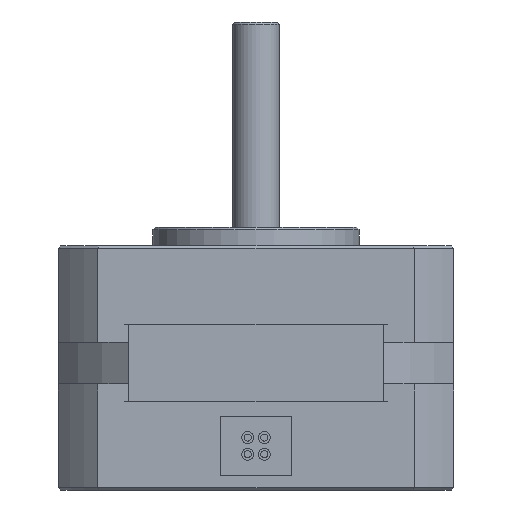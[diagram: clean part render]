
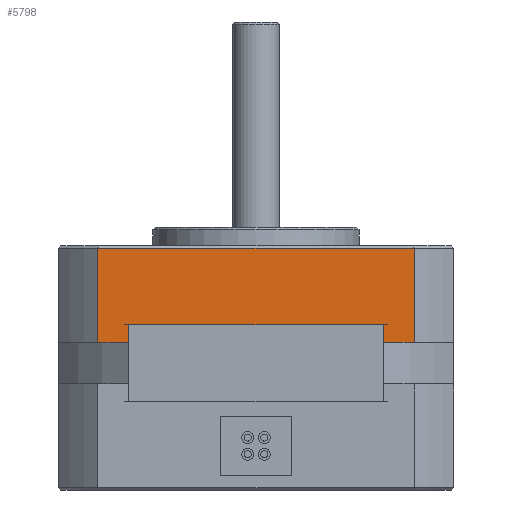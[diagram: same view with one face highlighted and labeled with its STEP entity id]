
A CAD part, front view. The second image highlights one B-rep face of the part: STEP entity #5798.
In plain terms, the highlighted planar face has unit normal (0, -1, 0).
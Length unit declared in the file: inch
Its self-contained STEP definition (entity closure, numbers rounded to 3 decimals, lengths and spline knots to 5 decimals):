
#5490 = VERTEX_POINT ( 'NONE', #8144 ) ;
#5532 = VERTEX_POINT ( 'NONE', #8313 ) ;
#5533 = EDGE_CURVE ( 'NONE', #5532, #5490, #8315, .T. ) ;
#5540 = EDGE_CURVE ( 'NONE', #5543, #5580, #8279, .T. ) ;
#5543 = VERTEX_POINT ( 'NONE', #8309 ) ;
#5580 = VERTEX_POINT ( 'NONE', #8461 ) ;
#5696 = ORIENTED_EDGE ( 'NONE', *, *, #5813, .T. ) ;
#5697 = EDGE_CURVE ( 'NONE', #5698, #5837, #8906, .T. ) ;
#5698 = VERTEX_POINT ( 'NONE', #8977 ) ;
#5771 = ORIENTED_EDGE ( 'NONE', *, *, #5533, .F. ) ;
#5776 = ORIENTED_EDGE ( 'NONE', *, *, #5801, .F. ) ;
#5777 = VERTEX_POINT ( 'NONE', #9202 ) ;
#5788 = VERTEX_POINT ( 'NONE', #9061 ) ;
#5798 = ADVANCED_FACE ( 'NONE', ( #9079 ), #9103, .T. ) ;
#5801 = EDGE_CURVE ( 'NONE', #5490, #5580, #8966, .T. ) ;
#5813 = EDGE_CURVE ( 'NONE', #5532, #5698, #9235, .T. ) ;
#5814 = ORIENTED_EDGE ( 'NONE', *, *, #5834, .T. ) ;
#5834 = EDGE_CURVE ( 'NONE', #5837, #5788, #9262, .T. ) ;
#5837 = VERTEX_POINT ( 'NONE', #9209 ) ;
#5842 = ORIENTED_EDGE ( 'NONE', *, *, #5697, .T. ) ;
#5856 = EDGE_CURVE ( 'NONE', #5788, #5777, #9407, .T. ) ;
#5857 = ORIENTED_EDGE ( 'NONE', *, *, #5856, .T. ) ;
#5858 = EDGE_CURVE ( 'NONE', #5543, #5777, #9398, .T. ) ;
#5859 = ORIENTED_EDGE ( 'NONE', *, *, #5540, .T. ) ;
#5860 = ORIENTED_EDGE ( 'NONE', *, *, #5858, .F. ) ;
#5863 = EDGE_LOOP ( 'NONE', ( #5776, #5771, #5696, #5842, #5814, #5857, #5860, #5859 ) ) ;
#8144 = CARTESIAN_POINT ( 'NONE',  ( -0.53503, -0.83, -0.33 ) ) ;
#8278 = CARTESIAN_POINT ( 'NONE',  ( -0.66413, -0.83, -0.405 ) ) ;
#8279 = LINE ( 'NONE', #8278, #8305 ) ;
#8304 = DIRECTION ( 'NONE',  ( 1., 0., 0. ) ) ;
#8305 = VECTOR ( 'NONE', #8304, 39.37008 ) ;
#8309 = CARTESIAN_POINT ( 'NONE',  ( -0.66413, -0.83, -0.405 ) ) ;
#8310 = DIRECTION ( 'NONE',  ( -1., 0., 0. ) ) ;
#8311 = VECTOR ( 'NONE', #8310, 39.37008 ) ;
#8313 = CARTESIAN_POINT ( 'NONE',  ( 0.53503, -0.83, -0.33 ) ) ;
#8314 = CARTESIAN_POINT ( 'NONE',  ( 0.53503, -0.83, -0.33 ) ) ;
#8315 = LINE ( 'NONE', #8314, #8311 ) ;
#8461 = CARTESIAN_POINT ( 'NONE',  ( -0.53503, -0.83, -0.405 ) ) ;
#8675 = VECTOR ( 'NONE', #8712, 39.37008 ) ;
#8712 = DIRECTION ( 'NONE',  ( 0., 0., -1. ) ) ;
#8882 = DIRECTION ( 'NONE',  ( 1., 0., 0. ) ) ;
#8883 = VECTOR ( 'NONE', #8882, 39.37008 ) ;
#8906 = LINE ( 'NONE', #8973, #8883 ) ;
#8965 = CARTESIAN_POINT ( 'NONE',  ( -0.53503, -0.83, -0.33 ) ) ;
#8966 = LINE ( 'NONE', #8965, #8675 ) ;
#8973 = CARTESIAN_POINT ( 'NONE',  ( -0.66413, -0.83, -0.405 ) ) ;
#8977 = CARTESIAN_POINT ( 'NONE',  ( 0.53503, -0.83, -0.405 ) ) ;
#9061 = CARTESIAN_POINT ( 'NONE',  ( 0.66413, -0.83, -0.01 ) ) ;
#9079 = FACE_OUTER_BOUND ( 'NONE', #5863, .T. ) ;
#9086 = DIRECTION ( 'NONE',  ( 0., 0., -1. ) ) ;
#9087 = DIRECTION ( 'NONE',  ( 0., -1., 0. ) ) ;
#9088 = CARTESIAN_POINT ( 'NONE',  ( -0.66413, -0.83, -0.405 ) ) ;
#9102 = AXIS2_PLACEMENT_3D ( 'NONE', #9088, #9087, #9086 ) ;
#9103 = PLANE ( 'NONE',  #9102 ) ;
#9202 = CARTESIAN_POINT ( 'NONE',  ( -0.66413, -0.83, -0.01 ) ) ;
#9209 = CARTESIAN_POINT ( 'NONE',  ( 0.66413, -0.83, -0.405 ) ) ;
#9235 = LINE ( 'NONE', #9355, #9354 ) ;
#9259 = DIRECTION ( 'NONE',  ( 0., 0., 1. ) ) ;
#9260 = VECTOR ( 'NONE', #9259, 39.37008 ) ;
#9261 = CARTESIAN_POINT ( 'NONE',  ( 0.66413, -0.83, -0.405 ) ) ;
#9262 = LINE ( 'NONE', #9261, #9260 ) ;
#9353 = DIRECTION ( 'NONE',  ( 0., 0., -1. ) ) ;
#9354 = VECTOR ( 'NONE', #9353, 39.37008 ) ;
#9355 = CARTESIAN_POINT ( 'NONE',  ( 0.53503, -0.83, -0.33 ) ) ;
#9398 = LINE ( 'NONE', #9510, #9509 ) ;
#9406 = CARTESIAN_POINT ( 'NONE',  ( -0.66413, -0.83, -0.01 ) ) ;
#9407 = LINE ( 'NONE', #9406, #9489 ) ;
#9488 = DIRECTION ( 'NONE',  ( -1., 0., 0. ) ) ;
#9489 = VECTOR ( 'NONE', #9488, 39.37008 ) ;
#9508 = DIRECTION ( 'NONE',  ( 0., 0., 1. ) ) ;
#9509 = VECTOR ( 'NONE', #9508, 39.37008 ) ;
#9510 = CARTESIAN_POINT ( 'NONE',  ( -0.66413, -0.83, -0.405 ) ) ;
